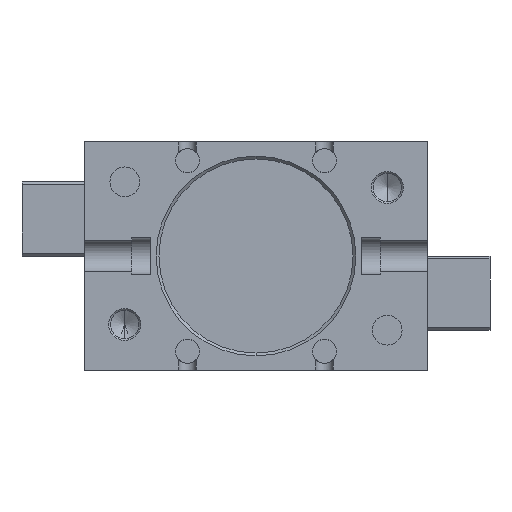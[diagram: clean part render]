
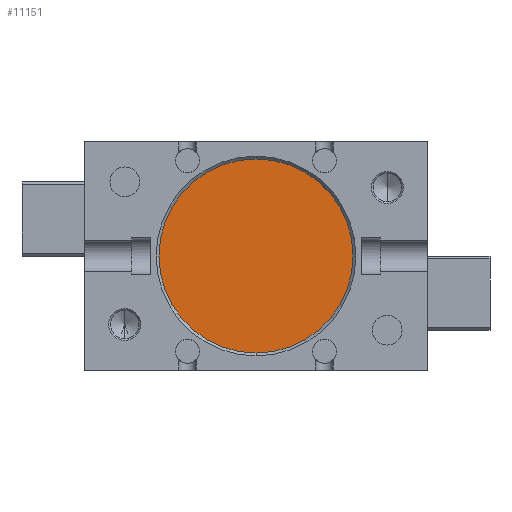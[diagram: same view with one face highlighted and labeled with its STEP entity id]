
A CAD part, front view. The second image highlights one B-rep face of the part: STEP entity #11151.
In plain terms, the highlighted planar face has unit normal (0, -1, 0).
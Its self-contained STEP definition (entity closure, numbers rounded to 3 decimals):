
#492 = CARTESIAN_POINT ( 'NONE',  ( 0., 4., 0. ) ) ;
#536 = EDGE_LOOP ( 'NONE', ( #47261, #48530 ) ) ;
#6026 = CIRCLE ( 'NONE', #47256, 17. ) ;
#6601 = CARTESIAN_POINT ( 'NONE',  ( 0., 4., 0. ) ) ;
#8474 = DIRECTION ( 'NONE',  ( 0., 0., -1. ) ) ;
#9914 = EDGE_CURVE ( 'NONE', #27998, #28786, #12800, .T. ) ;
#10204 = CARTESIAN_POINT ( 'NONE',  ( 0., 4., 17. ) ) ;
#10346 = DIRECTION ( 'NONE',  ( 0., 0., -1. ) ) ;
#11151 = ADVANCED_FACE ( 'NONE', ( #20438 ), #26691, .T. ) ;
#12357 = DIRECTION ( 'NONE',  ( 0., -1., 0. ) ) ;
#12800 = CIRCLE ( 'NONE', #16477, 17. ) ;
#16477 = AXIS2_PLACEMENT_3D ( 'NONE', #6601, #32845, #10346 ) ;
#19680 = AXIS2_PLACEMENT_3D ( 'NONE', #492, #30944, #8474 ) ;
#20438 = FACE_OUTER_BOUND ( 'NONE', #536, .T. ) ;
#26691 = PLANE ( 'NONE',  #19680 ) ;
#27179 = CARTESIAN_POINT ( 'NONE',  ( 0., 4., -17. ) ) ;
#27998 = VERTEX_POINT ( 'NONE', #27179 ) ;
#28053 = EDGE_CURVE ( 'NONE', #28786, #27998, #6026, .T. ) ;
#28786 = VERTEX_POINT ( 'NONE', #10204 ) ;
#30944 = DIRECTION ( 'NONE',  ( 0., -1., 0. ) ) ;
#32845 = DIRECTION ( 'NONE',  ( 0., -1., 0. ) ) ;
#34868 = CARTESIAN_POINT ( 'NONE',  ( 0., 4., 0. ) ) ;
#38646 = DIRECTION ( 'NONE',  ( 0., 0., -1. ) ) ;
#47256 = AXIS2_PLACEMENT_3D ( 'NONE', #34868, #12357, #38646 ) ;
#47261 = ORIENTED_EDGE ( 'NONE', *, *, #9914, .T. ) ;
#48530 = ORIENTED_EDGE ( 'NONE', *, *, #28053, .T. ) ;
